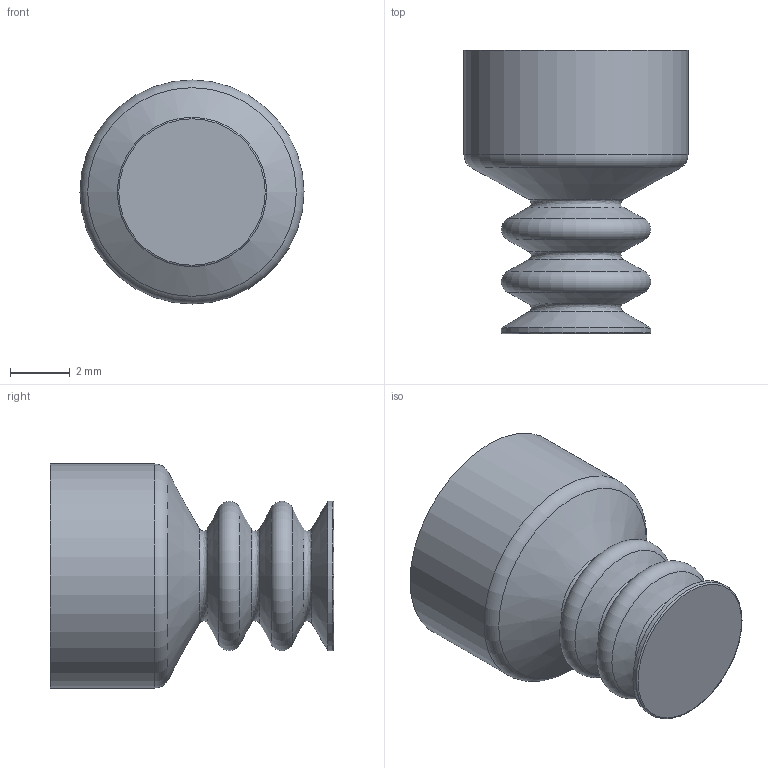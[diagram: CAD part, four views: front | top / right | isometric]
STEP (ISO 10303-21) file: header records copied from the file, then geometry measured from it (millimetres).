
FILE_DESCRIPTION((''),'2;1');
FILE_NAME('W:\Technik\Konstruktion\CAD-Daten\Vakuumsauger\21_\21.005.088\21.005.088_Kd.stp','2010-09-17T12:42:47',('moswald'),(''),'Autodesk Inventor 2009','Autodesk Inventor 2009','');
FILE_SCHEMA(('AUTOMOTIVE_DESIGN { 1 0 10303 214 1 1 1 1 }'));
Length unit declared in the file: millimetre
Products named in the file (1): 21.005.088_Kd
Bounding box: 7.5 x 9.5 x 7.5 mm (x, y, z)
Volume: 176.7 mm3; surface area: 371.4 mm2
Topology: 1 solids, 1 shells, 25 faces, 45 edges, 24 vertices
Faces by surface type: torus 6, bspline 6, cone 5, plane 4, cylinder 4
Full cylindrical faces by diameter (mm): 4 x1, 5 x1, 6 x1, 7.5 x1
Entity records: 850 total; most frequent: CARTESIAN_POINT 428, DIRECTION 88, ORIENTED_EDGE 48, EDGE_LOOP 48, AXIS2_PLACEMENT_3D 44, FACE_OUTER_BOUND 25, ADVANCED_FACE 25, VERTEX_POINT 24
